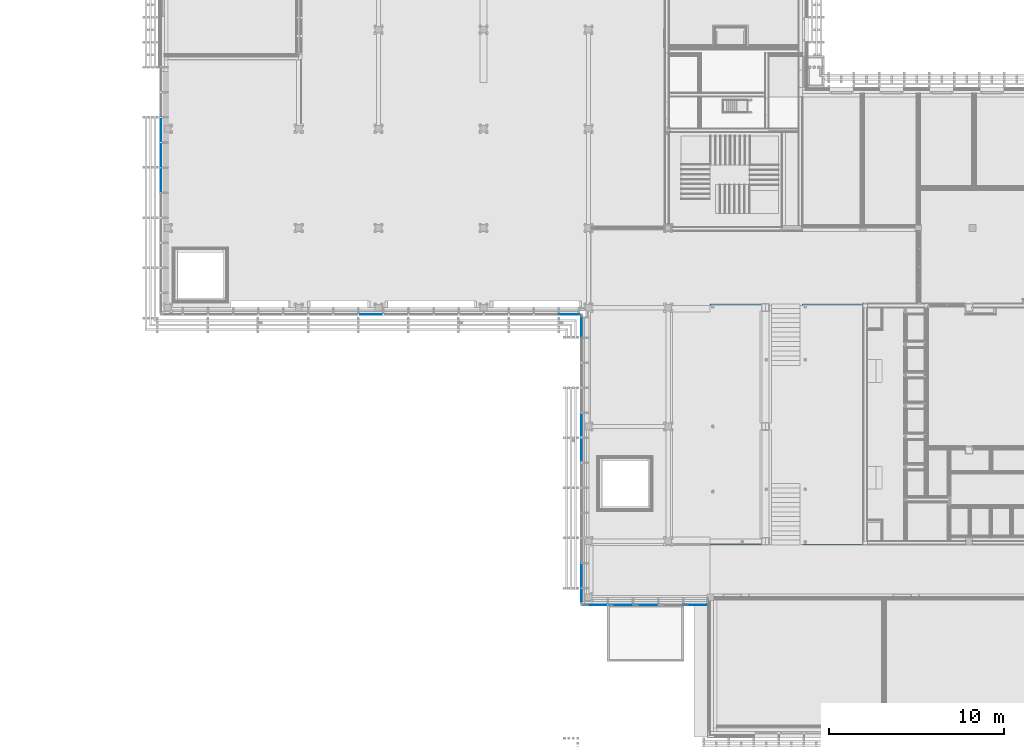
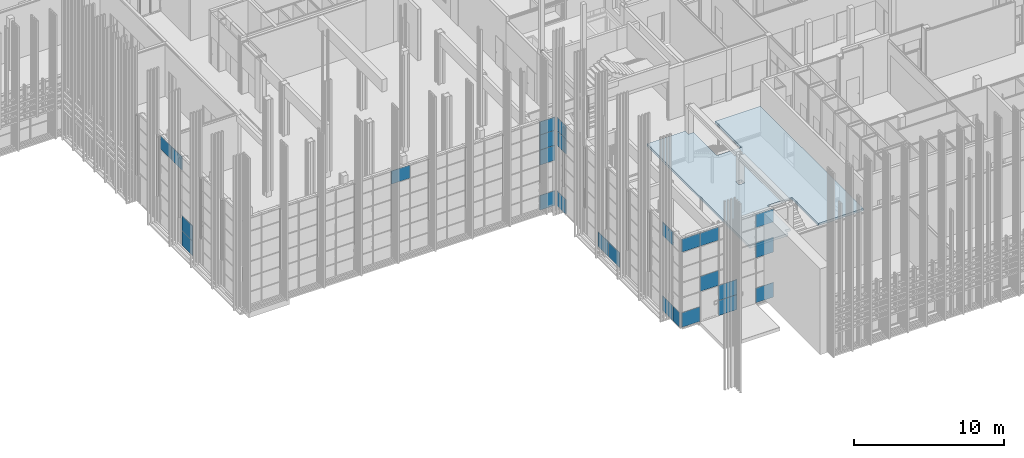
# One storey, part 104 of 260: 26 plates, 1 slab, 1 element without a shape of its own.
"""IFC2X3 building model written with IfcOpenShell, lengths in millimetres."""

from ifc_helpers import new_model, entity, si_unit, converted_unit, derived_unit, money_unit, direction, frame, origin_with_axes, place, context, subcontext, project, spatial, faceted_brep, material, type_object, element, aggregate, save


model = new_model("IFC2X3")

# Units and contexts
model_context = context("Model", 3, precision=0.01, world=origin_with_axes(), true_north=direction((0.0, 1.0)))
body_context = subcontext(model_context, "Body", "Model", "MODEL_VIEW")
ifc_project = project(units=[si_unit("LENGTHUNIT", "METRE", prefix="MILLI"), si_unit("AREAUNIT", "SQUARE_METRE"), si_unit("VOLUMEUNIT", "CUBIC_METRE"), converted_unit("PLANEANGLEUNIT", "DEGREE", entity("IfcPlaneAngleMeasure", 0.0174532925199), si_unit("PLANEANGLEUNIT", "RADIAN"), dimensions=[0, 0, 0, 0, 0, 0, 0]), money_unit("EUR"), converted_unit("TIMEUNIT", "Year", entity("IfcTimeMeasure", 31556926.0), si_unit("TIMEUNIT", "SECOND"), dimensions=[0, 0, 1, 0, 0, 0, 0]), si_unit("MASSUNIT", "GRAM", prefix="KILO"), si_unit("THERMODYNAMICTEMPERATUREUNIT", "DEGREE_CELSIUS"), si_unit("LUMINOUSINTENSITYUNIT", "LUMEN"), si_unit("ENERGYUNIT", "JOULE", prefix="MEGA"), derived_unit("THERMALCONDUCTANCEUNIT", [(si_unit("POWERUNIT", "WATT"), 1), (si_unit("LENGTHUNIT", "METRE"), -1), (si_unit("THERMODYNAMICTEMPERATUREUNIT", "KELVIN"), -1)]), derived_unit("SPECIFICHEATCAPACITYUNIT", [(si_unit("ENERGYUNIT", "JOULE"), 1), (si_unit("MASSUNIT", "GRAM", prefix="KILO"), -1), (si_unit("THERMODYNAMICTEMPERATUREUNIT", "KELVIN"), -1)]), derived_unit("MASSDENSITYUNIT", [(si_unit("MASSUNIT", "GRAM", prefix="KILO"), 1), (si_unit("VOLUMEUNIT", "CUBIC_METRE"), -1)])], contexts=[model_context])

# Site, building, storey
site_placement = place(None, origin_with_axes())
site = spatial("IfcSite", under=ifc_project, at=site_placement, Name="Kolde pst 67a", CompositionType="ELEMENT")
building_placement = place(site_placement, origin_with_axes())
building = spatial("IfcBuilding", under=site, at=building_placement, Name="Riigigümnaasium", CompositionType="ELEMENT")
storey_placement = place(building_placement, origin_with_axes())
storey = spatial("IfcBuildingStorey", under=building, at=storey_placement, Name="1. korrus", CompositionType="ELEMENT", Elevation=0.0)

# Slab
ifc_material_1 = material(Name="_KANDETARIND - monoliitne raudbetoon vastavalt EK osale")
slab_type = type_object("IfcSlabType", Name="VL-RBM-20/1_garderoobi tasand 200", PredefinedType="NOTDEFINED")
slab_placement = place(storey_placement, frame((55169.9820755, 10699.9620224, 2045.0), z_axis=(0.0, 0.0, 1.0), x_axis=(1.0, 0.0, 0.0)))
element("IfcSlab", 1, at=slab_placement, inside=storey, type_object=slab_type, material=ifc_material_1, Name="VAHELAGI", PredefinedType="NOTDEFINED", context=body_context, shape_type="Brep", body=[
    faceted_brep([(3359.96672896, 13330.3118112, -200.0), (3359.96672896, 13330.3118112, 0.0), (3359.96672896, 10240.307278, 0.0), (3359.96672896, 10240.307278, -200.0), (2949.96678219, 13330.3118112, 0.0), (2949.96678219, 13330.3118112, -200.0), (2949.96678219, 13745.0317151, 0.0), (0.0, 13745.0317151, 0.0), (0.0, 0.0, 0.0), (2949.96682005, 0.0, 0.0), (2949.96682005, 409.999918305, 0.0), (3368.77186385, 409.999918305, 0.0), (3359.98114657, 3499.99786774, 0.0), (5270.01205779, 3499.99786774, 0.0), (5270.01205779, -10.0063982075, 0.0), (8749.96862796, -10.0063982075, 0.0), (8749.55465071, 13750.0316336, 0.0), (5270.01205779, 13750.0316336, 0.0), (5270.01205779, 10240.307278, 0.0), (3369.96680119, 6960.03795181, 0.0), (3369.96680119, 6540.03795181, 0.0), (2949.96680119, 6540.03795181, 0.0), (2949.96680119, 6960.03795181, 0.0), (5270.01205779, 10240.307278, -200.0), (5270.01205779, 13750.0316336, -200.0), (8749.55465071, 13750.0316336, -200.0), (8749.96862796, -10.0063982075, -200.0), (5270.01205779, -10.0063982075, -200.0), (5270.01205779, 3499.99786774, -200.0), (3359.98114657, 3499.99786774, -200.0), (3368.77186385, 409.999918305, -200.0), (2949.96682005, 409.999918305, -200.0), (2949.96682005, 0.0, -200.0), (0.0, 0.0, -200.0), (0.0, 13745.0317151, -200.0), (2949.96678219, 13745.0317151, -200.0), (3369.96680119, 6960.03795181, -200.0), (2949.96680119, 6960.03795181, -200.0), (2949.96680119, 6540.03795181, -200.0), (3369.96680119, 6540.03795181, -200.0)], [[[0, 1, 2, 3]], [[4, 1, 0, 5]], [[4, 6, 7, 8, 9, 10, 11, 12, 13, 14, 15, 16, 17, 18, 2, 1], [19, 20, 21, 22]], [[2, 18, 23, 3]], [[5, 0, 3, 23, 24, 25, 26, 27, 28, 29, 30, 31, 32, 33, 34, 35], [36, 37, 38, 39]], [[35, 6, 4, 5]], [[6, 35, 34, 7]], [[8, 7, 34, 33]], [[33, 32, 9, 8]], [[31, 10, 9, 32]], [[31, 30, 11, 10]], [[12, 11, 30, 29]], [[13, 12, 29, 28]], [[14, 13, 28, 27]], [[15, 14, 27, 26]], [[16, 15, 26, 25]], [[17, 16, 25, 24]], [[18, 17, 24, 23]], [[36, 39, 20, 19]], [[39, 38, 21, 20]], [[38, 37, 22, 21]], [[37, 36, 19, 22]]]),
])

# Curtain wall, plates
curtain_wall_type = type_object("IfcCurtainWallType", Name="Curtain Wall Type", PredefinedType="NOTDEFINED")
curtain_wall_placement = place(storey_placement, frame((47829.9854655, 8727.77020058, -0.000749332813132), z_axis=(0.0, 0.0, 1.0), x_axis=(1.0, 0.0, 0.0)))
curtain_wall = element("IfcCurtainWall", 2, at=curtain_wall_placement, inside=storey, type_object=curtain_wall_type, Name="KLAASFASSAAD")
ifc_material_2 = material(Name="_KLAAS - kirgas")
plate_type_1 = type_object("IfcPlateType", Name="Main Panel 76 x 1195 x 33", PredefinedType="NOTDEFINED")
plate_1_placement = place(curtain_wall_placement, frame((0.0, 0.0, 615.000374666), z_axis=(0.0, 0.0, 1.0), x_axis=(9.11614519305e-10, -1.0, 0.0)))
plate_1 = element("IfcPlate", 3, at=plate_1_placement, type_object=plate_type_1, material=ifc_material_2, Name="RF PANEEL PEAMINE-010", context=body_context, shape_type="Brep", body=[
    faceted_brep([(-923.791058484, 16.5, 610.000365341), (-923.791058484, -16.5, 610.000365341), (423.960913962, -16.5, 610.000365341), (423.960913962, 16.5, 610.000365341), (-923.791079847, 16.5, -585.000368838), (-923.791079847, -16.5, -585.000368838), (423.960913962, -16.5, -585.000368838), (499.830163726, -16.5, -585.000368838), (499.830163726, -16.5, 610.000365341), (499.830163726, 16.5, 610.000365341), (499.830163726, 16.5, -585.000368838), (423.960913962, 16.5, -585.000368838)], [[[0, 1, 2, 3]], [[4, 5, 1, 0]], [[1, 5, 6, 7, 8, 2]], [[3, 2, 8, 9]], [[0, 3, 9, 10, 11, 4]], [[11, 6, 5, 4]], [[10, 7, 6, 11]], [[9, 8, 7, 10]]]),
])
plate_type_2 = type_object("IfcPlateType", Name="Main Panel 72 x 1195 x 33", PredefinedType="NOTDEFINED")
plate_2_placement = place(curtain_wall_placement, frame((-6.51916565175e-06, 7151.2098817, 615.000374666), z_axis=(0.0, 0.0, 1.0), x_axis=(9.1161639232e-10, -1.0, 0.0)))
plate_2 = element("IfcPlate", 4, at=plate_2_placement, type_object=plate_type_2, material=ifc_material_2, Name="RF PANEEL PEAMINE-010", context=body_context, shape_type="Brep", body=[
    faceted_brep([(-922.589589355, 16.5, 610.000367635), (-922.589589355, -16.5, 610.000367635), (425.170800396, -16.5, 610.000367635), (425.170800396, 16.5, 610.000367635), (-922.589589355, 16.5, -585.000367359), (-922.589589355, -16.5, -585.000367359), (425.170800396, -16.5, -585.000367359), (497.418797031, -16.5, -585.000367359), (497.418797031, -16.5, 610.000367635), (497.418797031, 16.5, 610.000367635), (497.418797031, 16.5, -585.000367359), (425.170800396, 16.5, -585.000367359)], [[[0, 1, 2, 3]], [[4, 5, 1, 0]], [[1, 5, 6, 7, 8, 2]], [[3, 2, 8, 9]], [[0, 3, 9, 10, 11, 4]], [[11, 6, 5, 4]], [[10, 7, 6, 11]], [[9, 8, 7, 10]]]),
])
plate_3_placement = place(curtain_wall_placement, frame((-7.82276998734e-06, 8581.20987487, 615.000374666), z_axis=(0.0, 0.0, 1.0), x_axis=(9.1161639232e-10, -1.0, 0.0)))
plate_3 = element("IfcPlate", 5, at=plate_3_placement, type_object=plate_type_2, material=ifc_material_2, Name="RF PANEEL PEAMINE-010", context=body_context, shape_type="Brep", body=[
    faceted_brep([(-922.5811832, 16.5, 610.000377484), (-922.5811832, -16.5, 610.000377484), (425.17078467, -16.5, 610.000377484), (425.17078467, 16.5, 610.000377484), (-922.5811832, 16.5, -585.000378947), (-922.5811832, -16.5, -585.000378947), (425.17078467, -16.5, -585.000378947), (497.410389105, -16.5, -585.000378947), (497.410389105, -16.5, 610.000377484), (497.410389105, 16.5, 610.000377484), (497.410389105, 16.5, -585.000378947), (425.17078467, 16.5, -585.000378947)], [[[0, 1, 2, 3]], [[4, 5, 1, 0]], [[1, 5, 6, 7, 8, 2]], [[3, 2, 8, 9]], [[0, 3, 9, 10, 11, 4]], [[11, 6, 5, 4]], [[10, 7, 6, 11]], [[9, 8, 7, 10]]]),
])
plate_4_placement = place(curtain_wall_placement, frame((-1.29987469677e-05, 14259.0200381, 615.000422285), z_axis=(0.0, 0.0, 1.0), x_axis=(9.1161639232e-10, -1.0, 0.0)))
plate_4 = element("IfcPlate", 6, at=plate_4_placement, type_object=plate_type_2, material=ifc_material_2, Name="Kahepoolne välisuks", context=body_context, shape_type="Brep", body=[
    faceted_brep([(-733.21034371, 16.5, 610.000329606), (-733.21034371, -16.5, 610.000329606), (382.980957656, -16.5, 610.000329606), (382.980957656, 16.5, 610.000329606), (-733.21034371, 16.5, -585.000155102), (-733.21034371, -16.5, -585.000155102), (382.980957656, -16.5, -585.00042702), (455.228951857, -16.5, -585.00042702), (455.228951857, -16.5, 610.000329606), (455.228951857, 16.5, 610.000329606), (455.228951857, 16.5, -585.00042702), (382.980957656, 16.5, -585.00042702)], [[[0, 1, 2, 3]], [[4, 5, 1, 0]], [[1, 5, 6, 7, 8, 2]], [[3, 2, 8, 9]], [[0, 3, 9, 10, 11, 4]], [[11, 6, 5, 4]], [[10, 7, 6, 11]], [[9, 8, 7, 10]]]),
])
plate_type_3 = type_object("IfcPlateType", Name="Main Panel 72 x 1220 x 33", PredefinedType="NOTDEFINED")
plate_5_placement = place(curtain_wall_placement, frame((-1.29987469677e-05, 14259.020036, 5535.00074933), z_axis=(0.0, 0.0, 1.0), x_axis=(9.1161639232e-10, -1.0, 0.0)))
plate_5 = element("IfcPlate", 7, at=plate_5_placement, type_object=plate_type_3, material=ifc_material_2, Name="RF PANEEL PEAMINE-032", context=body_context, shape_type="Brep", body=[
    faceted_brep([(-693.20990456, 16.5, 609.999995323), (-693.20990456, -16.5, 609.999995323), (382.980954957, -16.5, 609.999995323), (382.980954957, 16.5, 609.999995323), (-693.20990456, 16.5, -609.999995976), (-693.20990456, -16.5, -609.999995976), (382.980954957, -16.5, -609.999995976), (455.228944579, -16.5, -609.999995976), (455.228964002, -16.5, 609.999995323), (455.228964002, 16.5, 609.999995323), (455.228944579, 16.5, -609.999995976), (382.980954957, 16.5, -609.999995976)], [[[0, 1, 2, 3]], [[4, 5, 1, 0]], [[1, 5, 6, 7, 8, 2]], [[3, 2, 8, 9]], [[0, 3, 9, 10, 11, 4]], [[11, 6, 5, 4]], [[10, 7, 6, 11]], [[9, 8, 7, 10]]]),
])
plate_type_4 = type_object("IfcPlateType", Name="Main Panel 1122 x 1220 x 33", PredefinedType="NOTDEFINED")
plate_6_placement = place(curtain_wall_placement, frame((2088.29336309, -1457.77066575, 3075.00074933), z_axis=(0.0, 0.0, 1.0), x_axis=(1.0, -2.70881141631e-07, 0.0)))
plate_6 = element("IfcPlate", 8, at=plate_6_placement, type_object=plate_type_4, material=ifc_material_2, Name="RF PANEEL PEAMINE-010", context=body_context, shape_type="Brep", body=[
    faceted_brep([(-572.636114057, 16.499999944, 610.000006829), (-572.636114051, -16.500000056, 610.000006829), (-274.727779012, -16.5, 610.000006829), (-274.727779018, 16.5, 610.000006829), (-572.636114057, 16.499999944, -610.000003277), (-572.636114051, -16.500000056, -610.000003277), (-274.727779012, -16.5, -610.000003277), (847.363892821, -16.4999997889, -610.000003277), (847.363892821, -16.4999997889, 610.000006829), (847.363892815, 16.5000002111, 610.000006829), (847.363892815, 16.5000002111, -610.000003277), (-274.727779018, 16.5, -610.000003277)], [[[0, 1, 2, 3]], [[4, 5, 1, 0]], [[1, 5, 6, 7, 8, 2]], [[3, 2, 8, 9]], [[0, 3, 9, 10, 11, 4]], [[11, 6, 5, 4]], [[10, 7, 6, 11]], [[9, 8, 7, 10]]]),
])
plate_7_placement = place(curtain_wall_placement, frame((3518.29335844, -1457.77105311, 1845.00074933), z_axis=(0.0, 0.0, 1.0), x_axis=(1.0, -2.70881141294e-07, 0.0)))
plate_7 = element("IfcPlate", 9, at=plate_7_placement, type_object=plate_type_4, material=ifc_material_2, Name="Pöörduks", context=body_context, shape_type="Brep", body=[
    faceted_brep([(-572.636116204, 16.499999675, 610.000009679), (-572.636116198, -16.500000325, 610.000009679), (-274.727775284, -16.500000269, 610.000009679), (-274.72777529, 16.499999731, 610.000009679), (-572.636137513, 16.499999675, -610.000003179), (-572.636137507, -16.500000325, -610.000003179), (-274.727775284, -16.500000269, -610.000003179), (847.36389737, -16.5000000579, -610.000003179), (847.36389737, -16.5000000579, 610.000009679), (847.363897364, 16.4999999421, 610.000009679), (847.363897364, 16.4999999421, -610.000003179), (-274.72777529, 16.499999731, -610.000003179)], [[[0, 1, 2, 3]], [[4, 5, 1, 0]], [[1, 5, 6, 7, 8, 2]], [[3, 2, 8, 9]], [[0, 3, 9, 10, 11, 4]], [[11, 6, 5, 4]], [[10, 7, 6, 11]], [[9, 8, 7, 10]]]),
])
plate_type_5 = type_object("IfcPlateType", Name="Main Panel 1122 x 1225 x 33", PredefinedType="NOTDEFINED")
plate_8_placement = place(curtain_wall_placement, frame((752.43017709, -1457.77030389, 527.143486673), z_axis=(0.0, 0.0, 1.0), x_axis=(1.0, -2.70881141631e-07, 0.0)))
plate_8 = element("IfcPlate", 10, at=plate_8_placement, type_object=plate_type_5, material=ifc_material_2, Name="RF PANEEL PEAMINE-010", context=body_context, shape_type="Brep", body=[
    faceted_brep([(-642.43016669, 16.4999996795, 697.857260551), (-642.430166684, -16.5000003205, 697.857260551), (-368.864584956, -16.500000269, 697.857260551), (-368.864584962, 16.499999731, 697.857260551), (-642.43016669, 16.4999996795, -497.1432821), (-642.430166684, -16.5000003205, -497.1432821), (-368.864652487, -16.500000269, -497.142764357), (726.135413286, -16.500000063, -497.142764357), (726.135413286, -16.500000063, -527.1427566), (753.227062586, -16.5000000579, -527.1427566), (753.227062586, -16.5000000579, 697.857260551), (753.22706258, 16.4999999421, 697.857260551), (753.22706258, 16.4999999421, -527.1427566), (726.135413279, 16.499999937, -527.1427566), (726.135413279, 16.499999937, -497.142764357), (-368.864652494, 16.499999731, -497.142764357)], [[[0, 1, 2, 3]], [[4, 5, 1, 0]], [[1, 5, 6, 7, 8, 9, 10, 2]], [[3, 2, 10, 11]], [[0, 3, 11, 12, 13, 14, 15, 4]], [[15, 6, 5, 4]], [[14, 7, 6, 15]], [[13, 8, 7, 14]], [[12, 9, 8, 13]], [[11, 10, 9, 12]]]),
])
plate_9_placement = place(curtain_wall_placement, frame((3518.29335569, -1457.77105311, 615.000734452), z_axis=(0.0, 0.0, 1.0), x_axis=(1.0, -2.70881141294e-07, 0.0)))
plate_9 = element("IfcPlate", 11, at=plate_9_placement, type_object=plate_type_5, material=ifc_material_2, Name="Pöörduks", context=body_context, shape_type="Brep", body=[
    faceted_brep([(-572.636134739, 16.499999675, 610.000020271), (-572.636134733, -16.500000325, 610.000020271), (-274.727771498, -16.500000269, 610.000020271), (-274.727771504, 16.499999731, 610.000020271), (-572.636134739, 16.499999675, -615.000014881), (-572.636134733, -16.500000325, -615.000014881), (-274.727771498, -16.500000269, -615.000014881), (847.363904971, -16.5000000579, -615.000014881), (847.363904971, -16.5000000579, 610.000020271), (847.363904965, 16.4999999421, 610.000020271), (847.363904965, 16.4999999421, -615.000014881), (-274.727771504, 16.499999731, -615.000014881)], [[[0, 1, 2, 3]], [[4, 5, 1, 0]], [[1, 5, 6, 7, 8, 2]], [[3, 2, 8, 9]], [[0, 3, 9, 10, 11, 4]], [[11, 6, 5, 4]], [[10, 7, 6, 11]], [[9, 8, 7, 10]]]),
])
plate_type_6 = type_object("IfcPlateType", Name="Main Panel 1086 x 1195 x 33", PredefinedType="NOTDEFINED")
plate_10_placement = place(curtain_wall_placement, frame((6374.7014172, -1457.77182686, 615.000734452), z_axis=(0.0, 0.0, 1.0), x_axis=(1.0, -2.70881141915e-07, 0.0)))
plate_10 = element("IfcPlate", 12, at=plate_10_placement, type_object=plate_type_6, material=ifc_material_2, Name="RF PANEEL PEAMINE-010", context=body_context, shape_type="Brep", body=[
    faceted_brep([(-569.044180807, 16.499999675, 610.000021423), (-569.044180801, -16.500000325, 610.000021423), (-271.135826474, -16.500000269, 610.000021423), (-271.135826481, 16.499999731, 610.000021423), (-569.044180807, 16.499999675, -585.000005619), (-569.044180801, -16.500000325, -585.000005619), (-271.135826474, -16.500000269, -585.000005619), (815.180008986, -16.5000000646, -585.000005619), (815.180008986, -16.5000000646, 610.000021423), (815.18000898, 16.4999999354, 610.000021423), (815.18000898, 16.4999999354, -585.000005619), (-271.135826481, 16.499999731, -585.000005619)], [[[0, 1, 2, 3]], [[4, 5, 1, 0]], [[1, 5, 6, 7, 8, 2]], [[3, 2, 8, 9]], [[0, 3, 9, 10, 11, 4]], [[11, 6, 5, 4]], [[10, 7, 6, 11]], [[9, 8, 7, 10]]]),
])
plate_type_7 = type_object("IfcPlateType", Name="Main Panel 1086 x 1220 x 33", PredefinedType="NOTDEFINED")
plate_11_placement = place(curtain_wall_placement, frame((6374.70142413, -1457.77182686, 4305.00074933), z_axis=(0.0, 0.0, 1.0), x_axis=(1.0, -2.70881141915e-07, 0.0)))
plate_11 = element("IfcPlate", 13, at=plate_11_placement, type_object=plate_type_7, material=ifc_material_2, Name="RF PANEEL PEAMINE-018", context=body_context, shape_type="Brep", body=[
    faceted_brep([(-569.044166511, 16.499999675, 609.999996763), (-569.044166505, -16.500000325, 609.999996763), (-271.135837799, -16.500000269, 609.999996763), (-271.135837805, 16.499999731, 609.999996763), (-569.044166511, 16.499999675, -609.999995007), (-569.044166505, -16.500000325, -609.999995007), (-271.135837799, -16.500000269, -609.999995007), (815.180002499, -16.5000000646, -609.999995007), (815.180002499, -16.5000000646, 609.999996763), (815.180002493, 16.4999999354, 609.999996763), (815.180002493, 16.4999999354, -609.999995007), (-271.135837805, 16.499999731, -609.999995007)], [[[0, 1, 2, 3]], [[4, 5, 1, 0]], [[1, 5, 6, 7, 8, 2]], [[3, 2, 8, 9]], [[0, 3, 9, 10, 11, 4]], [[11, 6, 5, 4]], [[10, 7, 6, 11]], [[9, 8, 7, 10]]]),
])
plate_type_8 = type_object("IfcPlateType", Name="Main Panel 1086 x 1075 x 33", PredefinedType="NOTDEFINED")
plate_12_placement = place(curtain_wall_placement, frame((6292.69512076, -1457.77180465, 6782.85729881), z_axis=(0.0, 0.0, 1.0), x_axis=(1.0, -2.70881141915e-07, 0.0)))
plate_12 = element("IfcPlate", 14, at=plate_12_placement, type_object=plate_type_8, material=ifc_material_2, Name="RF PANEEL PEAMINE-010", context=body_context, shape_type="Brep", body=[
    faceted_brep([(-487.037883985, 16.499999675, 447.14242945), (-487.037883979, -16.500000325, 447.14242945), (-189.129548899, -16.500000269, 447.14242945), (-189.129548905, 16.499999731, 447.14242945), (-487.037883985, 16.499999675, -627.856544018), (-487.037883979, -16.500000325, -627.856544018), (-189.129527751, -16.500000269, -627.856544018), (897.186307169, -16.5000000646, -627.856544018), (897.186434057, -16.5000000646, 447.142323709), (897.186434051, 16.4999999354, 447.142323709), (897.186307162, 16.4999999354, -627.856544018), (-189.129527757, 16.499999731, -627.856544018)], [[[0, 1, 2, 3]], [[4, 5, 1, 0]], [[1, 5, 6, 7, 8, 2]], [[3, 2, 8, 9]], [[0, 3, 9, 10, 11, 4]], [[11, 6, 5, 4]], [[10, 7, 6, 11]], [[9, 8, 7, 10]]]),
])
plate_type_9 = type_object("IfcPlateType", Name="Main Panel 1122 x 1075 x 33", PredefinedType="NOTDEFINED")
plate_13_placement = place(curtain_wall_placement, frame((2122.63433692, -1457.77067506, 6841.25026153), z_axis=(0.0, 0.0, 1.0), x_axis=(1.0, -2.70881141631e-07, 0.0)))
plate_13 = element("IfcPlate", 15, at=plate_13_placement, type_object=plate_type_9, material=ifc_material_2, Name="RF PANEEL PEAMINE-024", context=body_context, shape_type="Brep", body=[
    faceted_brep([(-606.977087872, 16.499999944, 388.74973969), (-606.977087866, -16.500000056, 388.74973969), (-309.068752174, -16.5, 388.749718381), (-309.068752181, 16.5, 388.749718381), (-606.977087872, 16.499999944, -686.249515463), (-606.977087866, -16.500000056, -686.249515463), (-309.068752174, -16.5, -686.249515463), (813.02292212, -16.4999997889, -686.249515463), (813.02292212, -16.4999997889, 388.749633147), (813.022922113, 16.5000002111, 388.749633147), (813.022922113, 16.5000002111, -686.249515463), (-309.068752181, 16.5, -686.249515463)], [[[0, 1, 2, 3]], [[4, 5, 1, 0]], [[1, 5, 6, 7, 8, 2]], [[3, 2, 8, 9]], [[0, 3, 9, 10, 11, 4]], [[11, 6, 5, 4]], [[10, 7, 6, 11]], [[9, 8, 7, 10]]]),
])
plate_14_placement = place(curtain_wall_placement, frame((757.014704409, -1457.77030514, 6782.85749562), z_axis=(0.0, 0.0, 1.0), x_axis=(1.0, -2.70881141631e-07, 0.0)))
plate_14 = element("IfcPlate", 16, at=plate_14_placement, type_object=plate_type_9, material=ifc_material_2, Name="RF PANEEL PEAMINE-019", context=body_context, shape_type="Brep", body=[
    faceted_brep([(-647.014693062, 16.4999996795, 447.142601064), (-647.014693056, -16.5000003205, 447.142601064), (-373.449131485, -16.500000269, 447.142601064), (-373.449131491, 16.499999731, 447.142601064), (-647.014693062, 16.4999996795, -627.856743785), (-647.014693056, -16.5000003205, -627.856743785), (-373.449131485, -16.500000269, -627.856743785), (748.642548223, -16.5000000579, -627.856743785), (748.642548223, -16.5000000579, 447.142511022), (748.642548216, 16.4999999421, 447.142511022), (748.642548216, 16.4999999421, -627.856743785), (-373.449131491, 16.499999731, -627.856743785)], [[[0, 1, 2, 3]], [[4, 5, 1, 0]], [[1, 5, 6, 7, 8, 2]], [[3, 2, 8, 9]], [[0, 3, 9, 10, 11, 4]], [[11, 6, 5, 4]], [[10, 7, 6, 11]], [[9, 8, 7, 10]]]),
])
plate_type_10 = type_object("IfcPlateType", Name="Main Panel 72 x 1075 x 33", PredefinedType="NOTDEFINED")
plate_15_placement = place(curtain_wall_placement, frame((-1.29388126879e-05, 14193.2730411, 6782.8574231), z_axis=(0.0, 0.0, 1.0), x_axis=(9.1161639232e-10, -1.0, 0.0)))
plate_15 = element("IfcPlate", 17, at=plate_15_placement, type_object=plate_type_10, material=ifc_material_2, Name="RF PANEEL PEAMINE-028", context=body_context, shape_type="Brep", body=[
    faceted_brep([(-798.957339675, 16.5, 447.142525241), (-798.957339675, -16.5, 447.142525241), (317.233953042, -16.5, 447.142525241), (317.233953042, 16.5, 447.142525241), (-798.957339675, 16.5, -627.856668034), (-798.957339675, -16.5, -627.856668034), (317.233953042, -16.5, -627.856668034), (389.481967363, -16.5, -627.856668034), (389.481967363, -16.5, 447.142525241), (389.481967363, 16.5, 447.142525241), (389.481967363, 16.5, -627.856668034), (317.233953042, 16.5, -627.856668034)], [[[0, 1, 2, 3]], [[4, 5, 1, 0]], [[1, 5, 6, 7, 8, 2]], [[3, 2, 8, 9]], [[0, 3, 9, 10, 11, 4]], [[11, 6, 5, 4]], [[10, 7, 6, 11]], [[9, 8, 7, 10]]]),
])
plate_type_11 = type_object("IfcPlateType", Name="Main Panel 1177 x 1195 x 33", PredefinedType="NOTDEFINED")
plate_16_placement = place(curtain_wall_placement, frame((-646.207539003, 15102.2373185, 615.000517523), z_axis=(0.0, 0.0, 1.0), x_axis=(0.999999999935, -1.14108152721e-05, 0.0)))
plate_16 = element("IfcPlate", 18, at=plate_16_placement, type_object=plate_type_11, material=ifc_material_2, Name="RF PANEEL PEAMINE-071", context=body_context, shape_type="Brep", body=[
    faceted_brep([(-641.207517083, 16.5000000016, 610.000235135), (-641.207517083, -16.4999999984, 610.000235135), (536.207518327, -16.4999999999, 610.000235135), (536.207518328, 16.5000000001, 610.000235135), (-641.207517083, 16.5000000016, -585.000240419), (-641.207517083, -16.4999999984, -585.000240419), (536.207518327, -16.4999999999, -585.000240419), (536.207518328, 16.5000000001, -585.000240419)], [[[0, 1, 2, 3]], [[4, 5, 1, 0]], [[1, 5, 6, 2]], [[3, 2, 6, 7]], [[0, 3, 7, 4]], [[7, 6, 5, 4]]]),
])
plate_type_12 = type_object("IfcPlateType", Name="Main Panel 1177 x 1220 x 33", PredefinedType="NOTDEFINED")
plate_17_placement = place(curtain_wall_placement, frame((-646.207539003, 15102.2373185, 4305.00074933), z_axis=(0.0, 0.0, 1.0), x_axis=(0.999999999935, -1.14108152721e-05, 0.0)))
plate_17 = element("IfcPlate", 19, at=plate_17_placement, type_object=plate_type_12, material=ifc_material_2, Name="RF PANEEL PEAMINE-077", context=body_context, shape_type="Brep", body=[
    faceted_brep([(-641.207517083, 16.5000000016, 610.00000474), (-641.207517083, -16.4999999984, 610.00000474), (536.207518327, -16.4999999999, 610.00000474), (536.207518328, 16.5000000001, 610.00000474), (-641.207517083, 16.5000000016, -609.999991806), (-641.207517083, -16.4999999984, -609.999991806), (536.207518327, -16.4999999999, -609.999991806), (536.207518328, 16.5000000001, -609.999991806)], [[[0, 1, 2, 3]], [[4, 5, 1, 0]], [[1, 5, 6, 2]], [[3, 2, 6, 7]], [[0, 3, 7, 4]], [[7, 6, 5, 4]]]),
])
plate_type_13 = type_object("IfcPlateType", Name="Main Panel 1137 x 1220 x 33", PredefinedType="NOTDEFINED")
plate_18_placement = place(curtain_wall_placement, frame((-646.207539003, 15102.2373185, 5535.00074933), z_axis=(0.0, 0.0, 1.0), x_axis=(0.999999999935, -1.14108152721e-05, 0.0)))
plate_18 = element("IfcPlate", 20, at=plate_18_placement, type_object=plate_type_13, material=ifc_material_2, Name="RF PANEEL PEAMINE-079", context=body_context, shape_type="Brep", body=[
    faceted_brep([(-641.207517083, 16.5000000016, 610.00000474), (-641.207517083, -16.4999999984, 610.00000474), (496.207529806, -16.4999999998, 610.00000474), (496.207529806, 16.5000000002, 610.00000474), (-641.207517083, 16.5000000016, -609.999991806), (-641.207517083, -16.4999999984, -609.999991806), (496.207529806, -16.4999999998, -609.999991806), (496.207529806, 16.5000000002, -609.999991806)], [[[0, 1, 2, 3]], [[4, 5, 1, 0]], [[1, 5, 6, 2]], [[3, 2, 6, 7]], [[0, 3, 7, 4]], [[7, 6, 5, 4]]]),
])
plate_type_14 = type_object("IfcPlateType", Name="Main Panel 1177 x 1075 x 33", PredefinedType="NOTDEFINED")
plate_19_placement = place(curtain_wall_placement, frame((-646.207539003, 15102.2373185, 6705.00033834), z_axis=(0.0, 0.0, 1.0), x_axis=(0.999999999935, -1.14108152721e-05, 0.0)))
plate_19 = element("IfcPlate", 21, at=plate_19_placement, type_object=plate_type_14, material=ifc_material_2, Name="RF PANEEL PEAMINE-081", context=body_context, shape_type="Brep", body=[
    faceted_brep([(-641.207517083, 16.5000000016, 524.999581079), (-641.207517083, -16.4999999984, 524.999581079), (536.207518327, -16.4999999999, 524.999581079), (536.207518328, 16.5000000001, 524.999581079), (-641.207517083, 16.5000000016, -549.999580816), (-641.207517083, -16.4999999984, -549.999580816), (536.207518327, -16.4999999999, -549.999580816), (536.207518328, 16.5000000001, -549.999580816)], [[[0, 1, 2, 3]], [[4, 5, 1, 0]], [[1, 5, 6, 2]], [[3, 2, 6, 7]], [[0, 3, 7, 4]], [[7, 6, 5, 4]]]),
])
plate_type_15 = type_object("IfcPlateType", Name="Main Panel 1420 x 1075 x 33", PredefinedType="NOTDEFINED")
plate_20_placement = place(curtain_wall_placement, frame((-12017.4150635, 15102.3670733, 6705.00033834), z_axis=(0.0, 0.0, 1.0), x_axis=(0.999999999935, -1.14108152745e-05, 0.0)))
plate_20 = element("IfcPlate", 22, at=plate_20_placement, type_object=plate_type_15, material=ifc_material_2, Name="RF PANEEL PEAMINE-172", context=body_context, shape_type="Brep", body=[
    faceted_brep([(-710.000003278, 16.5000000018, 524.999596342), (-710.000003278, -16.4999999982, 524.999596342), (710.000003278, -16.5, 524.999596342), (710.000003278, 16.5, 524.999596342), (-710.000003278, 16.5000000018, -549.999592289), (-710.000003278, -16.4999999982, -549.999592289), (710.000003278, -16.5, -549.999592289), (710.000003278, 16.5, -549.999592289)], [[[0, 1, 2, 3]], [[4, 5, 1, 0]], [[1, 5, 6, 2]], [[3, 2, 6, 7]], [[0, 3, 7, 4]], [[7, 6, 5, 4]]]),
])
plate_type_16 = type_object("IfcPlateType", Name="Main Panel 915 x 1220 x 33", PredefinedType="NOTDEFINED")
plate_21_placement = place(curtain_wall_placement, frame((-23999.9248992, 22850.607552, 1845.00074933), z_axis=(0.0, 0.0, 1.0), x_axis=(-7.64768489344e-06, -0.999999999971, 0.0)))
plate_21 = element("IfcPlate", 23, at=plate_21_placement, type_object=plate_type_16, material=ifc_material_2, Name="RF PANEEL PEAMINE-215", context=body_context, shape_type="Brep", body=[
    faceted_brep([(-641.66667213, 16.5, 610.000006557), (-641.66667213, -16.5, 610.000006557), (-136.666662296, -16.5, 610.000006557), (-136.666662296, 16.5, 610.000006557), (-641.66667213, 16.5, -610.000003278), (-641.66667213, -16.5, -610.000003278), (-136.666662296, -16.5, -610.000003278), (778.333334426, -16.5, -610.000003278), (778.333334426, -16.5, 610.000006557), (778.333334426, 16.5, 610.000006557), (778.333334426, 16.5, -610.000003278), (-136.666662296, 16.5, -610.000003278)], [[[0, 1, 2, 3]], [[4, 5, 1, 0]], [[1, 5, 6, 7, 8, 2]], [[3, 2, 8, 9]], [[0, 3, 9, 10, 11, 4]], [[11, 6, 5, 4]], [[10, 7, 6, 11]], [[9, 8, 7, 10]]]),
])
plate_type_17 = type_object("IfcPlateType", Name="Main Panel 915 x 1075 x 33", PredefinedType="NOTDEFINED")
plate_22_placement = place(curtain_wall_placement, frame((-23999.9140937, 24263.5242179, 6841.25008067), z_axis=(0.0, 0.0, 1.0), x_axis=(-7.64768489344e-06, -0.999999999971, 0.0)))
plate_22 = element("IfcPlate", 24, at=plate_22_placement, type_object=plate_type_17, material=ifc_material_2, Name="RF PANEEL PEAMINE-192", context=body_context, shape_type="Brep", body=[
    faceted_brep([(-658.750003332, 16.5, 388.749553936), (-658.750003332, -16.5, 388.749553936), (-153.74999432, -16.5, 388.749553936), (-153.74999432, 16.5, 388.749553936), (-658.750003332, 16.5, -686.249334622), (-658.750003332, -16.5, -686.249334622), (-153.74999432, -16.5, -686.249334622), (761.25000091, -16.5, -686.249334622), (761.25000091, -16.5, 388.749553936), (761.25000091, 16.5, 388.749553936), (761.25000091, 16.5, -686.249334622), (-153.74999432, 16.5, -686.249334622)], [[[0, 1, 2, 3]], [[4, 5, 1, 0]], [[1, 5, 6, 7, 8, 2]], [[3, 2, 8, 9]], [[0, 3, 9, 10, 11, 4]], [[11, 6, 5, 4]], [[10, 7, 6, 11]], [[9, 8, 7, 10]]]),
])
plate_23_placement = place(curtain_wall_placement, frame((-23999.9031575, 25693.5242119, 6841.25008067), z_axis=(0.0, 0.0, 1.0), x_axis=(-7.64768489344e-06, -0.999999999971, 0.0)))
plate_23 = element("IfcPlate", 25, at=plate_23_placement, type_object=plate_type_17, material=ifc_material_2, Name="RF PANEEL PEAMINE-191", context=body_context, shape_type="Brep", body=[
    faceted_brep([(-658.74999572, 16.5, 388.749545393), (-658.74999572, -16.5, 388.749545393), (-153.750012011, -16.5, 388.749545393), (-153.750012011, 16.5, 388.749545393), (-658.74999572, 16.5, -686.249334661), (-658.74999572, -16.5, -686.249334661), (-153.750012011, -16.5, -686.249334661), (761.249997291, -16.5, -686.249334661), (761.249997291, -16.5, 388.749545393), (761.249997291, 16.5, 388.749545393), (761.249997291, 16.5, -686.249334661), (-153.750012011, 16.5, -686.249334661)], [[[0, 1, 2, 3]], [[4, 5, 1, 0]], [[1, 5, 6, 7, 8, 2]], [[3, 2, 8, 9]], [[0, 3, 9, 10, 11, 4]], [[11, 6, 5, 4]], [[10, 7, 6, 11]], [[9, 8, 7, 10]]]),
])
plate_type_18 = type_object("IfcPlateType", Name="Main Panel 915 x 1195 x 33", PredefinedType="NOTDEFINED")
plate_24_placement = place(curtain_wall_placement, frame((-23999.9248992, 22850.6075522, 615.000387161), z_axis=(0.0, 0.0, 1.0), x_axis=(-7.64768489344e-06, -0.999999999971, 0.0)))
plate_24 = element("IfcPlate", 26, at=plate_24_placement, type_object=plate_type_18, material=ifc_material_2, Name="RF PANEEL PEAMINE-214", context=body_context, shape_type="Brep", body=[
    faceted_brep([(-641.666671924, 16.5, 610.000091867), (-641.666671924, -16.5, 610.000091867), (-136.66666209, -16.5, 610.000091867), (-136.66666209, 16.5, 610.000091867), (-641.666671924, 16.5, -585.000360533), (-641.666671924, -16.5, -585.000360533), (-136.66666209, -16.5, -585.000360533), (778.333334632, -16.5, -585.000360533), (778.333334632, -16.5, 610.000091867), (778.333334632, 16.5, 610.000091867), (778.333334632, 16.5, -585.000360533), (-136.66666209, 16.5, -585.000360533)], [[[0, 1, 2, 3]], [[4, 5, 1, 0]], [[1, 5, 6, 7, 8, 2]], [[3, 2, 8, 9]], [[0, 3, 9, 10, 11, 4]], [[11, 6, 5, 4]], [[10, 7, 6, 11]], [[9, 8, 7, 10]]]),
])
plate_type_19 = type_object("IfcPlateType", Name="Main Panel 76 x 1075 x 33", PredefinedType="NOTDEFINED")
plate_25_placement = place(curtain_wall_placement, frame((-4.83169060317e-08, 52.9951147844, 6841.25023072), z_axis=(0.0, 0.0, 1.0), x_axis=(9.11614519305e-10, -1.0, 0.0)))
plate_25 = element("IfcPlate", 27, at=plate_25_placement, type_object=plate_type_19, material=ifc_material_2, Name="RF PANEEL PEAMINE-048", context=body_context, shape_type="Brep", body=[
    faceted_brep([(-870.795965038, 16.5, 388.749704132), (-870.795965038, -16.5, 388.749704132), (476.956030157, -16.5, 388.749704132), (476.956030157, 16.5, 388.749704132), (-870.795943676, 16.5, -686.249491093), (-870.795943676, -16.5, -686.249491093), (476.956030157, -16.5, -686.249491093), (552.82528, -16.5, -686.249491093), (552.825258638, -16.5, 388.749704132), (552.825258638, 16.5, 388.749704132), (552.82528, 16.5, -686.249491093), (476.956030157, 16.5, -686.249491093)], [[[0, 1, 2, 3]], [[4, 5, 1, 0]], [[1, 5, 6, 7, 8, 2]], [[3, 2, 8, 9]], [[0, 3, 9, 10, 11, 4]], [[11, 6, 5, 4]], [[10, 7, 6, 11]], [[9, 8, 7, 10]]]),
])
plate_type_20 = type_object("IfcPlateType", Name="Main Panel 838 x 1195 x 33", PredefinedType="NOTDEFINED")
plate_26_placement = place(curtain_wall_placement, frame((8.94559093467e-07, -981.300126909, 615.000374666), z_axis=(0.0, 0.0, 1.0), x_axis=(9.11614519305e-10, -1.0, 0.0)))
plate_26 = element("IfcPlate", 28, at=plate_26_placement, type_object=plate_type_20, material=ifc_material_2, Name="RF PANEEL PEAMINE-010", context=body_context, shape_type="Brep", body=[
    faceted_brep([(-471.469973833, 16.5, 610.00037162), (-471.469973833, -16.5, 610.00037162), (366.469979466, -16.5, 610.00037162), (366.469979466, 16.5, 610.00037162), (-471.469973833, 16.5, -585.000374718), (-471.469973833, -16.5, -585.000374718), (366.469979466, -16.5, -585.000374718), (366.469979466, 16.5, -585.000374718)], [[[0, 1, 2, 3]], [[4, 5, 1, 0]], [[1, 5, 6, 2]], [[3, 2, 6, 7]], [[0, 3, 7, 4]], [[7, 6, 5, 4]]]),
])
aggregate(curtain_wall, [plate_1, plate_2, plate_3, plate_8, plate_6, plate_10, plate_11, plate_12, plate_13, plate_15, plate_5, plate_16, plate_17, plate_18, plate_19, plate_20, plate_22, plate_23, plate_14, plate_7, plate_24, plate_21, plate_25, plate_4, plate_26, plate_9])

save(model, "model.ifc")
